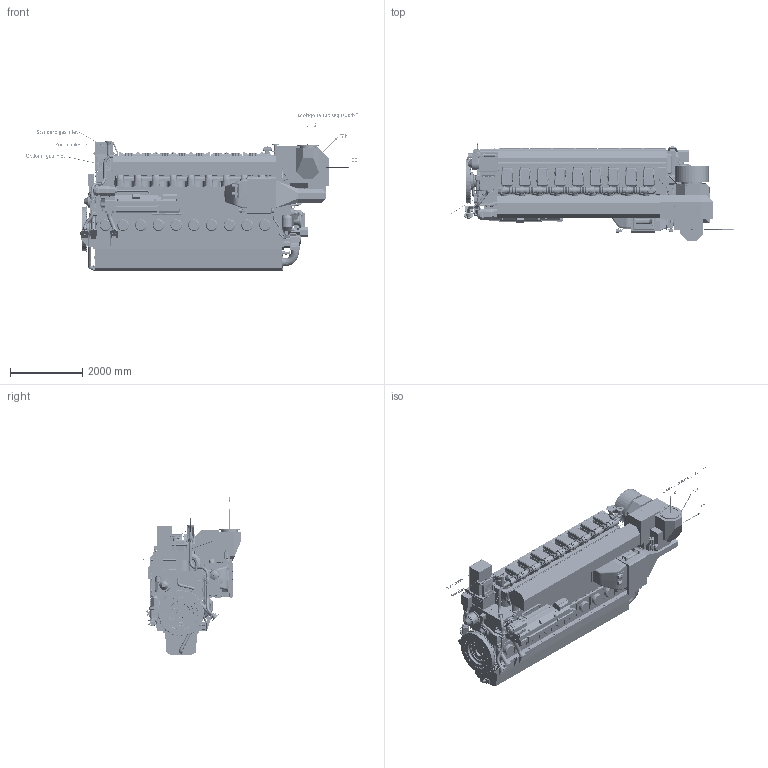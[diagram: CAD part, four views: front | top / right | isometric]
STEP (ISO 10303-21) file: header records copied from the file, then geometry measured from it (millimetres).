
FILE_DESCRIPTION(/* description */ (''),/* implementation_level */ '2;1');
FILE_NAME(/* name */ 'DAAF382379_A.stp',/* time_stamp */ '2021-12-30T13:04:10+02:00',/* author */ (''),/* organization */ (''),/* preprocessor_version */ 'ST-DEVELOPER v16.7',/* originating_system */ 'SIEMENS PLM Software NX 1915',/* authorisation */ '');
FILE_SCHEMA (('AUTOMOTIVE_DESIGN { 1 0 10303 214 3 1 1 1 }'));
Products named in the file (71): PAAF559689--_COVER; PABA066964--_Double wall gas vent system; PAAF906213--_NITROGEN GAS PIPE; PAAF975683--_Gas feed pipe double wall; PAAF078241--_COVER; PAAF977365--_Electrical equipment for side cover; PAAF975946--_gas pipe between cylinders; PAAF975926--_main gas admission valve; PAAF238216--_CRANKSHAFT; PAAF245469--_LUBE OIL MODULE; PAAF078708--_ACTUATOR; PABA142427--_Control air system WG_BP TCF; PAAF211503--_WASTE GATE _ BY-PASS; PAAF277184--_TURBOCHARGER; PAAF093447--_SEPARATOR CONNECTIONS; PAAF977184--_Control air system WG_BP system TC FE; PAAF675626--_OIL MIST DETECTOR; PABA135981--_Electrical equipment for lube oil module_ TCFE; PAAF270351--_EQUIPMENT; PAAF909498--_LOCAL CONTROL PANEL; PAAF906214--_ELECTRICAL EQUIPMENT; PABA065520--_Counter flange for HT preheating_ connection 406; PAAF243367--_GOVERNOR; PAAF486326--_AIR SYSTEM; PAAF721110--_DRAIN PIPE; PAAF776393--_AIR INLET PIPE; PAAF681233--_AIR INLET PIPE; PAAF202746--_CLEANING DEVICE; PAAF280989--_COVERS; PAAF683775--_AIR INLET BOX; PAAF066759--_INSULATION BOX; PAAF322125--_TURBOCHARGER BRACKET; PAAF671497--_AIR VENT PIPE; PAAF078621--_LT-WATER PIPES; PAAF078619--_LT-WATER PIPES; PAAF068492--_AIR VENT SYSTEM; PAAF093819--_WATER CONNECTION; PAAF093585--_STARTING AIR PIPES; PABA041419--_Lube oil system forr ABBA155 in free end; PAAF271372--_MOTOR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
Assembly tree (85 placements, depth 3):
  DAAF382379_A-Outline drawing
    PABA319996--_3D tags
    PABA332381--_Gas feed pipe from roof
    PABA320172--_Turbo options
    PABA332349--_W9L34DFC-TCF_MODEL
      PABA036864--_Cylinder heads multiducts cylinder liner
      PAAF063633--_ENGINE BLOCK
      PAAF291916--_INTERMEDIATE GEAR
      PAAF906204--_SHUT-DOWN MECHANISM
      PAAF063771--_COVERS
      PAAF895907--_COVERS
      PAAF978290--_Covers top shields 9L
      PAAF976976--_Cylinder head covers 9L
      PAAF064319--_COVERS
      PAAF074388--_END COVER
      PAAF243671--_PUMP COVER
      PAAF243623--_FUEL PIPES
      PAAF397145--_COVERS
      PAAF247479--_FRAME
      PAAF087082--_A_LEAK FUEL PIPES
      PAAF087111--_LEAK FUEL SYSTEM
      PAAF087114--_LEAK FUEL SYSTEM
      PAAF087122--_LEAK FUEL PIPES
      PAAF078074--_TURNING DEVICE
      PAAF247485--_LUBRICATING OIL PUMP
      PAAF247483--_OIL PIPE
      PAAF087136--_LUBRICATING OIL PIPES
      PAAF243686--_CENTRIFUGAL FILTER
      PAAF087145--_OIL SUCTION PIPE
      PAAF074445--_WET SUMP
      PAAF271372--_MOTOR
      PABA041419--_Lube oil system forr ABBA155 in free end
      PAAF093585--_STARTING AIR PIPES
      PAAF093819--_WATER CONNECTION
      PAAF068492--_AIR VENT SYSTEM
      PAAF078619--_LT-WATER PIPES
      PAAF078621--_LT-WATER PIPES
      PAAF671497--_AIR VENT PIPE
      PAAF322125--_TURBOCHARGER BRACKET
      PAAF066759--_INSULATION BOX
      PAAF683775--_AIR INLET BOX
      PAAF280989--_COVERS
      PAAF202746--_CLEANING DEVICE
      PAAF681233--_AIR INLET PIPE
      PAAF776393--_AIR INLET PIPE
      PAAF721110--_DRAIN PIPE
      PAAF486326--_AIR SYSTEM
      PAAF243367--_GOVERNOR
      PABA065520--_Counter flange for HT preheating_ connection 406
      PAAF906214--_ELECTRICAL EQUIPMENT
      PAAF909498--_LOCAL CONTROL PANEL
      PAAF270351--_EQUIPMENT
      PABA135981--_Electrical equipment for lube oil module_ TCFE
      PAAF675626--_OIL MIST DETECTOR
      PAAF977184--_Control air system WG_BP system TC FE
      PAAF093447--_SEPARATOR CONNECTIONS
      PAAF277184--_TURBOCHARGER
      PAAF211503--_WASTE GATE _ BY-PASS
      PABA142427--_Control air system WG_BP TCF
      PAAF078708--_ACTUATOR
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Bounding box: 9181.01 x 2692.67 x 4366.18 mm (x, y, z)
Volume: 18276557009.1 mm3; surface area: 248959145.9 mm2
Topology: 424 solids, 436 shells, 18928 faces, 47321 edges, 30391 vertices
Faces by surface type: plane 9405, cylinder 5187, bspline 2040, extrusion 877, torus 786, cone 575, sphere 55, revolution 3
Full cylindrical faces by diameter (mm): 0.7 x2, 1 x9, 2 x2, 3 x3, 4.9 x1, 6 x14, 6.9 x1, 7 x4, 8 x27, 8.1 x1, 9 x6, 9.7 x1, 10 x3, 11 x8, 11.908 x1, 12 x42, 12.3 x1, 13.2 x4, 13.5 x4, 14 x21, 14.5 x1, 14.989 x2, 15 x8, 15.5 x36, 15.6 x4, 15.7 x4, 16 x14, 16.376 x1, 16.8 x1, 17.5 x2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
Entity records: 756334 total; most frequent: CARTESIAN_POINT 336724, ORIENTED_EDGE 86642, DIRECTION 77735, EDGE_CURVE 43321, VERTEX_POINT 28736, AXIS2_PLACEMENT_3D 26338, VECTOR 25056, LINE 24179
